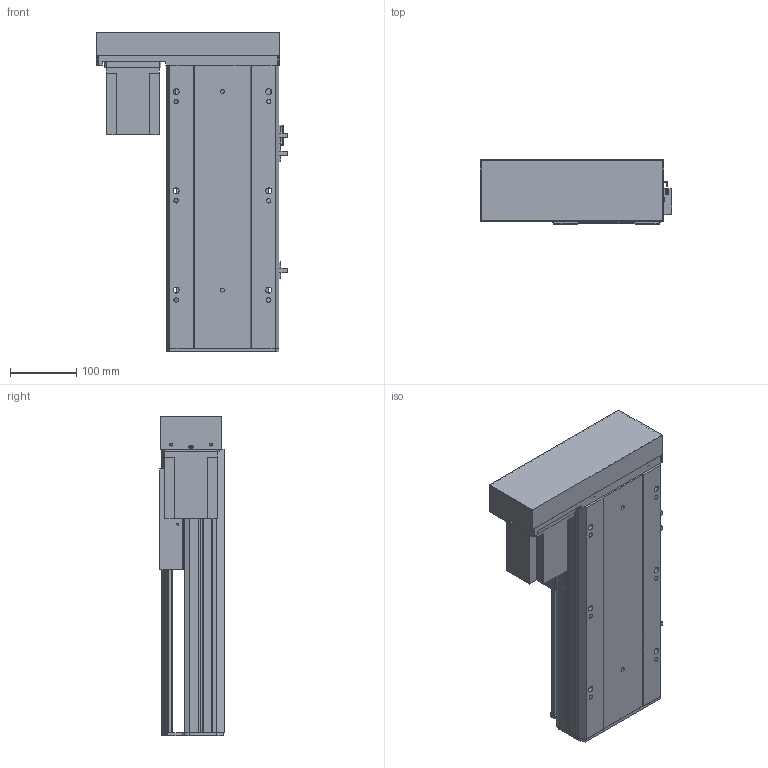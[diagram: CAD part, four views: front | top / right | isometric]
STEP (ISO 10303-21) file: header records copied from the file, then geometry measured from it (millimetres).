
FILE_DESCRIPTION (( 'STEP AP203' ), '1' );
FILE_NAME ('Y170-D10-S200-BL-P750W.STEP', '2020-01-17T12:58:27', ( '微软用户' ), ( '微软中国' ), 'SwSTEP 2.0', 'SolidWorks 2017', '' );
FILE_SCHEMA (( 'CONFIG_CONTROL_DESIGN' ));
Length unit declared in the file: millimetre
Products named in the file (12): Y170-陔遴奻裔-BR; YD-Y100-135-新外置传感挡片(通用）; Y100-135俋离換覜ん; 170--掛极-BR; Y170-BL-P750W楊擘啣; Y--BL蟀諉啣-陔遴-; 侂狟750W; Y170-D10-S200-BL-P750W; EGH20賑輸_蕼偞; Y雄赽釱-耜蚾; Y-BL.BR-俋欶; Y170耜裔--準---
Assembly tree (14 placements, depth 2):
  Y170-D10-S200-BL-P750W
    Y170耜裔--準---
    YD-Y100-135-新外置传感挡片(通用）
    Y100-135俋离換覜ん  x3
    170--掛极-BR
    Y170-BL-P750W楊擘啣
    侂狟750W
    EGH20賑輸_蕼偞  x2
    Y雄赽釱-耜蚾
    Y-BL.BR-俋欶
    Y170-陔遴奻裔-BR
    Y--BL蟀諉啣-陔遴-
Bounding box: 289 x 97 x 483.5 mm (x, y, z)
Volume: 3107381.3 mm3; surface area: 991383.2 mm2
Topology: 14 solids, 14 shells, 885 faces, 2450 edges, 1616 vertices
Faces by surface type: plane 443, cylinder 426, cone 16
Entity records: 27450 total; most frequent: CARTESIAN_POINT 4694, DIRECTION 4588, ORIENTED_EDGE 4396, EDGE_CURVE 2198, AXIS2_PLACEMENT_3D 1618, VERTEX_POINT 1460, VECTOR 1352, LINE 1352
